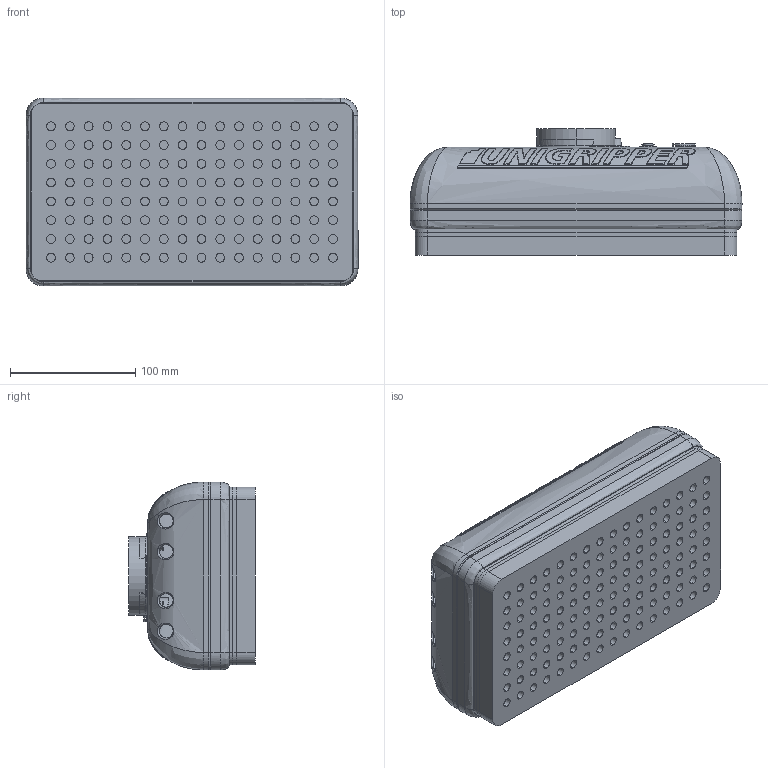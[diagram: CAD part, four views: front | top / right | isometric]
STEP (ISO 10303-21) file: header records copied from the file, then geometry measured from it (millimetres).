
FILE_DESCRIPTION (( 'STEP AP203' ), '1' );
FILE_NAME ('9750-613.STEP', '2018-09-19T13:09:06', ( '' ), ( '' ), 'SwSTEP 2.0', 'SolidWorks 2018', '' );
FILE_SCHEMA (( 'CONFIG_CONTROL_DESIGN' ));
Length unit declared in the file: millimetre
Products named in the file (1): 9750-613
Bounding box: 265 x 101.15 x 150 mm (x, y, z)
Surface area: 259116 mm2 (no closed solid volume)
Topology: 0 solids, 25 shells, 1009 faces, 3669 edges, 2515 vertices
Faces by surface type: cylinder 384, bspline 359, plane 222, torus 38, cone 6
Entity records: 60924 total; most frequent: CARTESIAN_POINT 34213, ORIENTED_EDGE 5639, DIRECTION 4267, EDGE_CURVE 3655, VERTEX_POINT 2515, AXIS2_PLACEMENT_3D 1685, B_SPLINE_CURVE_WITH_KNOTS 1631, EDGE_LOOP 1331
